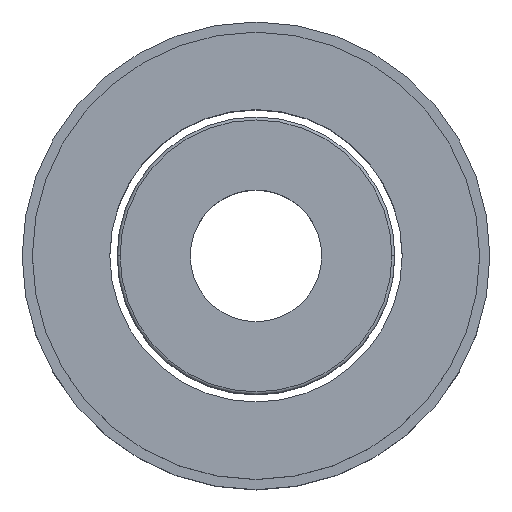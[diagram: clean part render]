
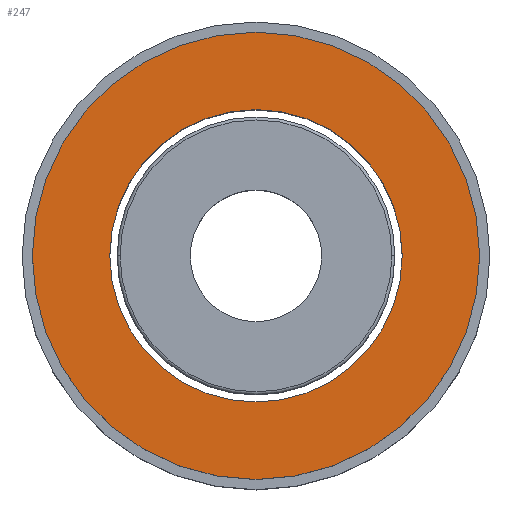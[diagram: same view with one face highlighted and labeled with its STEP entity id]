
A CAD part, top view. The second image highlights one B-rep face of the part: STEP entity #247.
In plain terms, the highlighted planar face has unit normal (0, 0, 1).
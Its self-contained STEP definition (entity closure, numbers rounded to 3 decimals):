
#1 = DIRECTION ( 'NONE',  ( -1., 0., 0. ) ) ;
#2 = VERTEX_POINT ( 'NONE', #728 ) ;
#4 = DIRECTION ( 'NONE',  ( -1., 0., 0. ) ) ;
#8 = VERTEX_POINT ( 'NONE', #804 ) ;
#14 = DIRECTION ( 'NONE',  ( 1., 0., 0. ) ) ;
#101 = CIRCLE ( 'NONE', #331, 5. ) ;
#106 = EDGE_CURVE ( 'NONE', #159, #387, #101, .T. ) ;
#113 = DIRECTION ( 'NONE',  ( 0., 0., -1. ) ) ;
#118 = CARTESIAN_POINT ( 'NONE',  ( 5., 0., 0. ) ) ;
#135 = FACE_OUTER_BOUND ( 'NONE', #231, .T. ) ;
#140 = PLANE ( 'NONE',  #610 ) ;
#158 = CARTESIAN_POINT ( 'NONE',  ( 0., 0., 0. ) ) ;
#159 = VERTEX_POINT ( 'NONE', #118 ) ;
#197 = CIRCLE ( 'NONE', #273, 5. ) ;
#213 = CARTESIAN_POINT ( 'NONE',  ( 0., 0., 0. ) ) ;
#214 = ORIENTED_EDGE ( 'NONE', *, *, #304, .F. ) ;
#216 = DIRECTION ( 'NONE',  ( 0., 0., -1. ) ) ;
#231 = EDGE_LOOP ( 'NONE', ( #595, #214 ) ) ;
#247 = ADVANCED_FACE ( 'NONE', ( #768, #135 ), #140, .T. ) ;
#273 = AXIS2_PLACEMENT_3D ( 'NONE', #158, #216, #1 ) ;
#304 = EDGE_CURVE ( 'NONE', #8, #2, #651, .T. ) ;
#331 = AXIS2_PLACEMENT_3D ( 'NONE', #418, #113, #695 ) ;
#346 = EDGE_CURVE ( 'NONE', #387, #159, #197, .T. ) ;
#356 = ORIENTED_EDGE ( 'NONE', *, *, #346, .T. ) ;
#357 = EDGE_CURVE ( 'NONE', #2, #8, #391, .T. ) ;
#366 = CARTESIAN_POINT ( 'NONE',  ( -5., 0., 0. ) ) ;
#387 = VERTEX_POINT ( 'NONE', #366 ) ;
#391 = CIRCLE ( 'NONE', #782, 7.65 ) ;
#418 = CARTESIAN_POINT ( 'NONE',  ( 0., 0., 0. ) ) ;
#444 = EDGE_LOOP ( 'NONE', ( #356, #555 ) ) ;
#498 = DIRECTION ( 'NONE',  ( 0., 0., -1. ) ) ;
#502 = DIRECTION ( 'NONE',  ( -1., 0., 0. ) ) ;
#555 = ORIENTED_EDGE ( 'NONE', *, *, #106, .T. ) ;
#563 = DIRECTION ( 'NONE',  ( 0., 0., -1. ) ) ;
#580 = AXIS2_PLACEMENT_3D ( 'NONE', #655, #563, #4 ) ;
#595 = ORIENTED_EDGE ( 'NONE', *, *, #357, .F. ) ;
#610 = AXIS2_PLACEMENT_3D ( 'NONE', #707, #851, #14 ) ;
#651 = CIRCLE ( 'NONE', #580, 7.65 ) ;
#655 = CARTESIAN_POINT ( 'NONE',  ( 0., 0., 0. ) ) ;
#695 = DIRECTION ( 'NONE',  ( -1., 0., 0. ) ) ;
#707 = CARTESIAN_POINT ( 'NONE',  ( 0., 7.65, 0. ) ) ;
#728 = CARTESIAN_POINT ( 'NONE',  ( -7.65, 0., 0. ) ) ;
#768 = FACE_BOUND ( 'NONE', #444, .T. ) ;
#782 = AXIS2_PLACEMENT_3D ( 'NONE', #213, #498, #502 ) ;
#804 = CARTESIAN_POINT ( 'NONE',  ( 7.65, 0., 0. ) ) ;
#851 = DIRECTION ( 'NONE',  ( 0., 0., 1. ) ) ;
